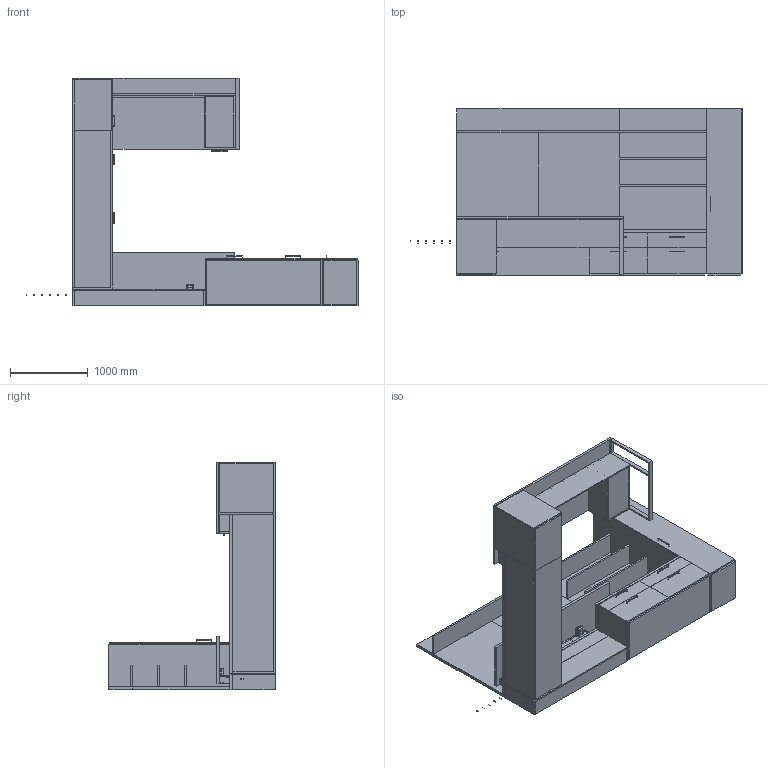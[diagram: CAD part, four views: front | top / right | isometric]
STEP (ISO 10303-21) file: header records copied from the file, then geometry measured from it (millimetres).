
FILE_DESCRIPTION(/* description */ ('','CAx-IF Rec.Pracs.---Representation and Presentation of Product Manufacturing Information (PMI)---4.0---2014-10-13'),/* implementation_level */ '2;1');
FILE_NAME(/* name */ 'BASYS^PO6.stp',/* time_stamp */ '2024-12-05T17:33:52-05:00',/* author */ ('mbowman'),/* organization */ (''),/* preprocessor_version */ 'ST-DEVELOPER v19.2',/* originating_system */ 'Autodesk Inventor 2023',/* authorisation */ '');
FILE_SCHEMA (('AP242_MANAGED_MODEL_BASED_3D_ENGINEERING_MIM_LF { 1 0 10303 442 1 1 4 }'));
Products named in the file (33): BASYS^OFFICE 6_U SHAPE-RIGHT HAND OFFICE; BASYS^WARDROBE-18x24x84-RIGHT END; BASYS^WARDROBE-18x24x84-PARTS SOLID; BASYS^CREDENZA 6B 23-59.25 FF STORAGE; BASYS^CREDENZA 6B 23-59.25 FF STORAGE_1; BASYS^U OFFICE_67 WIRE WALL-PARTS SOLID; dl5nc_without_bracket_STEP; dl5nc_without_bracket_STEP_1; DL5NC_OP; STANDART_MOTORHUS1_DL5; BASYS^U OFFICE 6_24x80.75 HAT WORKSURFACE-PARTS SOLID; BASYS^U OFFICE_66.75 WIRE WALL SHROUD-PARTS SOLID; BASYS^U OFFICE 6_ 44 WALL HUNG SHELVES-PARTS SOLID; BASYS^U OFFICE 6_41 WALL HUNG RT TACK-PARTS SOLID; BASYS^U OFFICE 6_41 WALL HUNG LT TACK-PARTS SOLID; BASYS^U OFFICE 6_82 WALL HUNG TOP SHELF-PARTS SOLID; BASYS^U OFFICE 6_ MOD CREDENZA-SOLID ASSEMBLY; BASYS^U OFFICE 6_ MOD CREDENZA-SOLID ASSEMBLY_1; BASYS^U OFFICE 6_ MOD CREDENZA FILLER BOX-SOLID ASSEMBLY; BASYS^OFFICE 6_MOD LOOP BASE DESK-84in U OFFICE; BASYS^DESK_STAND ALONE TOPS-84x36; BASYS^DESK_STAND ALONE TOPS-33.50 LEG REVEAL SPACER; BASYS^U OFFICE 6_OVERLAY TOPS-82.50 MOD FRONT RAIL; BASYS^METAL BASE_36 INCH LEG-8 INCH OFFSET RAIL; BASYS^U OFFICE 6_MOD MODESTY-58x13; BASYS^27.3125 HANGING PED_LETTER LEFT-BB PED; BASYS^27.3125 HANGING PED_LETTER LEFT-BB PED_1; BASYS^27.3125 HANGING PED_LETTER LEFT-F PED; BASYS^27.3125 HANGING PED_LETTER LEFT-F PED_1; BASYS^27.3125 HANGING PED_LETTER RIGHT-BB PED; BASYS^27.3125 HANGING PED_LETTER RIGHT-BB PED_1; SCHWINN-BAR PULL 2334.192; SCHWINN 22334 PULL
Assembly tree (47 placements, depth 4):
  BASYS^OFFICE 6_U SHAPE-RIGHT HAND OFFICE
    BASYS^WARDROBE-18x24x84-RIGHT END
      SCHWINN-BAR PULL 2334.192
      BASYS^WARDROBE-18x24x84-PARTS SOLID
    BASYS^CREDENZA 6B 23-59.25 FF STORAGE
      BASYS^CREDENZA 6B 23-59.25 FF STORAGE_1
      SCHWINN-BAR PULL 2334.192  x4
    BASYS^U OFFICE_67 WIRE WALL-PARTS SOLID
    dl5nc_without_bracket_STEP
      DL5NC_OP
      STANDART_MOTORHUS1_DL5
    dl5nc_without_bracket_STEP_1
      DL5NC_OP
      STANDART_MOTORHUS1_DL5
    BASYS^U OFFICE 6_24x80.75 HAT WORKSURFACE-PARTS SOLID
    BASYS^U OFFICE_66.75 WIRE WALL SHROUD-PARTS SOLID
    BASYS^U OFFICE 6_ 44 WALL HUNG SHELVES-PARTS SOLID
    BASYS^U OFFICE 6_41 WALL HUNG RT TACK-PARTS SOLID
    BASYS^U OFFICE 6_41 WALL HUNG LT TACK-PARTS SOLID
    BASYS^U OFFICE 6_82 WALL HUNG TOP SHELF-PARTS SOLID
    BASYS^U OFFICE 6_ MOD CREDENZA-SOLID ASSEMBLY
      BASYS^U OFFICE 6_ MOD CREDENZA-SOLID ASSEMBLY_1
      SCHWINN 22334 PULL  x4
    BASYS^U OFFICE 6_ MOD CREDENZA FILLER BOX-SOLID ASSEMBLY
    BASYS^OFFICE 6_MOD LOOP BASE DESK-84in U OFFICE
      BASYS^DESK_STAND ALONE TOPS-84x36
      BASYS^DESK_STAND ALONE TOPS-33.50 LEG REVEAL SPACER
      BASYS^U OFFICE 6_OVERLAY TOPS-82.50 MOD FRONT RAIL
      BASYS^METAL BASE_36 INCH LEG-8 INCH OFFSET RAIL
      BASYS^U OFFICE 6_MOD MODESTY-58x13
      BASYS^27.3125 HANGING PED_LETTER LEFT-BB PED
        BASYS^27.3125 HANGING PED_LETTER LEFT-BB PED_1
        SCHWINN-BAR PULL 2334.192  x2
      BASYS^27.3125 HANGING PED_LETTER LEFT-F PED
        BASYS^27.3125 HANGING PED_LETTER LEFT-F PED_1
        SCHWINN-BAR PULL 2334.192
      BASYS^27.3125 HANGING PED_LETTER RIGHT-BB PED
        BASYS^27.3125 HANGING PED_LETTER RIGHT-BB PED_1
        SCHWINN-BAR PULL 2334.192  x2
    SCHWINN 22334 PULL
Bounding box: 4259.39 x 2133.6 x 2921 mm (x, y, z)
Volume: 833202799.6 mm3; surface area: 78356463 mm2
Topology: 116 solids, 156 shells, 3161 faces, 7898 edges, 5050 vertices
Faces by surface type: plane 2037, cylinder 906, torus 92, bspline 76, cone 26, sphere 24
Full cylindrical faces by diameter (mm): 3.683 x10, 4.6 x4, 5 x20, 5.3 x12, 5.5 x4, 8 x4, 8.202 x40
Entity records: 64991 total; most frequent: CARTESIAN_POINT 15602, DIRECTION 9511, ORIENTED_EDGE 9062, EDGE_CURVE 4531, LINE 3309, VECTOR 3309, AXIS2_PLACEMENT_3D 3101, VERTEX_POINT 2922
